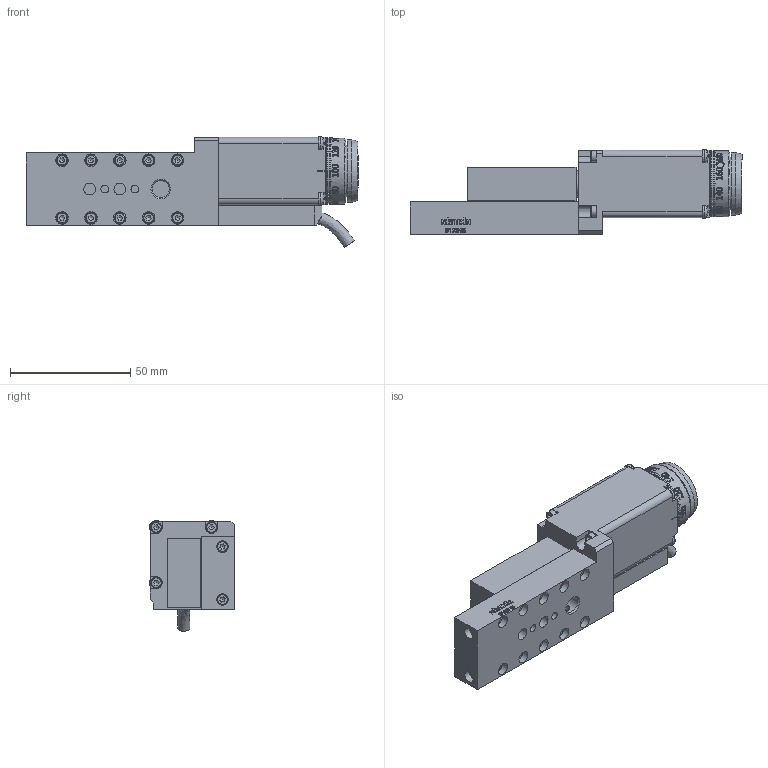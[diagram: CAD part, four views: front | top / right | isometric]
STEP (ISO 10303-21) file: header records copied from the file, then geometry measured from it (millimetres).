
FILE_DESCRIPTION(/* description */ (''),/* implementation_level */ '2;1');
FILE_NAME(/* name */ 'U:\KONSTRUKTORIAI\DOKUMENTACIJA\8\8MT173\8MT173-20\STEP\8MT173-20 SB.stp',/* time_stamp */ '2021-01-21T13:20:23+02:00',/* author */ ('dsgn36'),/* organization */ (''),/* preprocessor_version */ 'ST-DEVELOPER v15.2',/* originating_system */ 'Autodesk Inventor 2014',/* authorisation */ '');
FILE_SCHEMA (('CONFIG_CONTROL_DESIGN'));
Products named in the file (1): Part2
Bounding box: 138 x 35.3 x 46.04 mm (x, y, z)
Volume: 105077.7 mm3; surface area: 29474.9 mm2
Topology: 1 solids, 7 shells, 1708 faces, 4659 edges, 3065 vertices
Faces by surface type: plane 936, bspline 356, cylinder 269, cone 96, torus 39, sphere 12
Full cylindrical faces by diameter (mm): 2 x2, 2.013 x3, 3.2 x4, 3.242 x3, 4.5 x15, 4.8 x2, 4.917 x2, 5 x2, 5.2 x10, 7 x1, 7.1 x1, 7.2 x1, 9 x1, 11 x1, 22 x1, 26 x1, 27.5 x1
Entity records: 119476 total; most frequent: CARTESIAN_POINT 80465, ORIENTED_EDGE 8980, DIRECTION 6532, EDGE_CURVE 4490, VERTEX_POINT 3009, LINE 2214, VECTOR 2214, AXIS2_PLACEMENT_3D 2159
